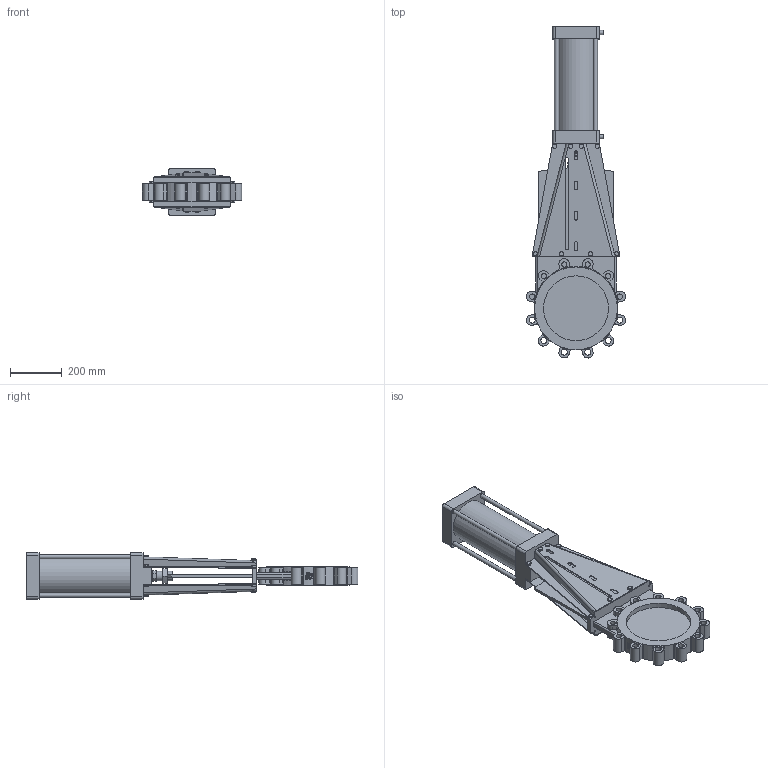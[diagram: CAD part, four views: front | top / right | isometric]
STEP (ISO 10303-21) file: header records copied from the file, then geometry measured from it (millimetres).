
FILE_DESCRIPTION(('STEP AP242'), '1');
FILE_NAME('GVKR1331M-1W-Fb-2P Çàäâèæêà øèáåðíàÿ ñ âûäâèæíûì øòîêîì DN.ru Äó250 Ðó10', '2026-05-25T21:23:48', ('R2D2'), (''), 'C3D Converter', 'C3D Toolkit', '');
FILE_SCHEMA(('AP242_MANAGED_MODEL_BASED_3D_ENGINEERING_MIM_LF { 1 0 10303 442 1 1 4 }'));
Length unit declared in the file: millimetre
Products named in the file (1): GVKR1331M-1W-Fb-2P
Bounding box: 382.75 x 1279.38 x 180 mm (x, y, z)
Volume: 19492.5 mm3; surface area: 1639193.6 mm2
Topology: 8 solids, 9 shells, 1054 faces, 2643 edges, 1673 vertices
Faces by surface type: plane 544, cylinder 201, extrusion 141, cone 108, torus 54, bspline 6
Full cylindrical faces by diameter (mm): 8 x8, 10 x21, 13 x8, 16 x14, 20 x12, 23 x6, 25 x2, 36 x1, 40 x1, 160 x1, 250 x2, 319 x1
Entity records: 58358 total; most frequent: CARTESIAN_POINT 26106, ORIENTED_EDGE 5087, DIRECTION 4318, EDGE_CURVE 2544, VERTEX_POINT 1673, AXIS2_PLACEMENT_3D 1518, EDGE_LOOP 1291, VECTOR 1282
